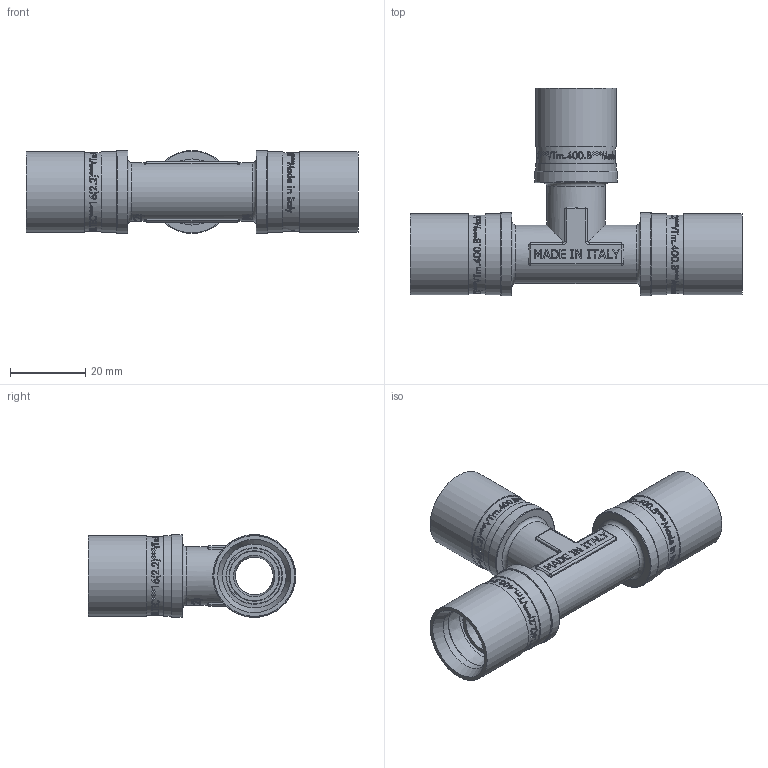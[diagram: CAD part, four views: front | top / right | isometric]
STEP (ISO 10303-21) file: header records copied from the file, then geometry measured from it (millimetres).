
FILE_DESCRIPTION(/* description */ (''),/* implementation_level */ '2;1');
FILE_NAME(/* name */ 'F:\Артём\00000\Работа удаленка\Аксеальные фитинги\VTm.431.BG.161616.stp',/* time_stamp */ '2021-01-26T12:01:03+03:00',/* author */ ('almis'),/* organization */ (''),/* preprocessor_version */ 'ST-DEVELOPER v18',/* originating_system */ 'Autodesk Inventor 2020',/* authorisation */ '');
FILE_SCHEMA (('AUTOMOTIVE_DESIGN { 1 0 10303 214 3 1 1 }'));
Length unit declared in the file: millimetre
Products named in the file (1): VTm.431.BG.161616
Bounding box: 88.02 x 55.01 x 22 mm (x, y, z)
Volume: 19390.4 mm3; surface area: 18173.5 mm2
Topology: 1 solids, 1 shells, 2466 faces, 6778 edges, 4543 vertices
Faces by surface type: bspline 1221, plane 860, cylinder 279, torus 73, cone 21, sphere 12
Full cylindrical faces by diameter (mm): 10 x2, 12.8 x15, 13.4 x12, 15 x3, 15.5 x2, 16.9 x6, 20.8 x3, 21.4 x6, 22 x3
Entity records: 100982 total; most frequent: CARTESIAN_POINT 45386, ORIENTED_EDGE 13556, DIRECTION 8016, EDGE_CURVE 6778, VERTEX_POINT 4543, LINE 3084, VECTOR 3084, EDGE_LOOP 2699
